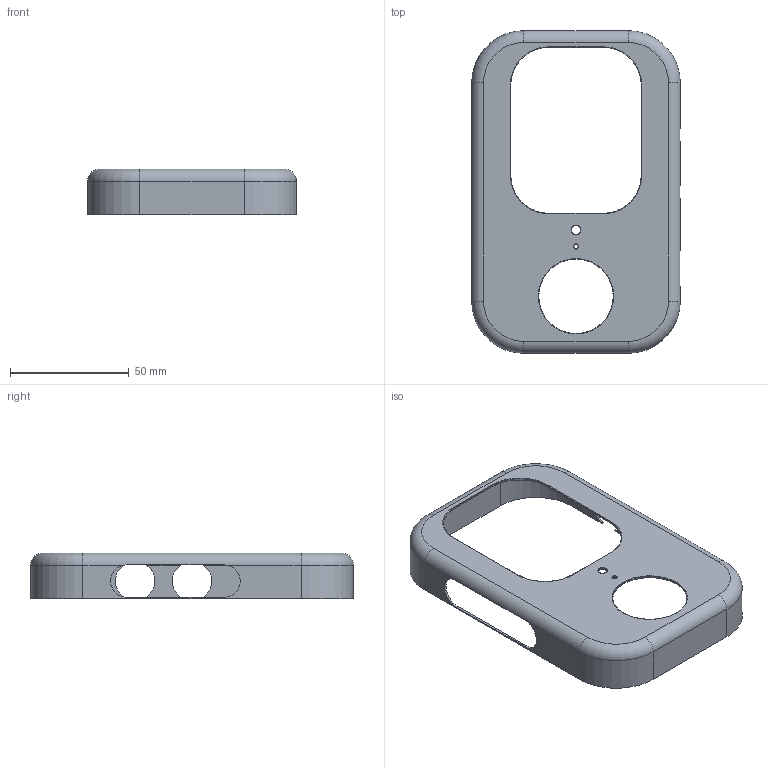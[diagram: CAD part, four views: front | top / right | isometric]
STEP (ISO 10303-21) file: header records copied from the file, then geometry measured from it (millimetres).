
FILE_DESCRIPTION(('Open CASCADE Model'),'2;1');
FILE_NAME('Open CASCADE Shape Model','2026-09-06T11:32:42',('Author'),( 'Open CASCADE'),'Open CASCADE STEP processor 7.7','Open CASCADE 7.7' ,'Unknown');
FILE_SCHEMA(('AUTOMOTIVE_DESIGN { 1 0 10303 214 1 1 1 1 }'));
Length unit declared in the file: millimetre
Products named in the file (1): Open CASCADE STEP translator 7.7 3
Bounding box: 88 x 136 x 19.25 mm (x, y, z)
Volume: 9944.7 mm3; surface area: 25624.6 mm2
Topology: 1 solids, 1 shells, 96 faces, 261 edges, 165 vertices
Faces by surface type: cylinder 45, plane 36, torus 15
Full cylindrical faces by diameter (mm): 1.8 x1, 3.7 x1, 31.4 x1
Entity records: 6968 total; most frequent: CARTESIAN_POINT 1791, DIRECTION 973, ORIENTED_EDGE 522, PCURVE 522, DEFINITIONAL_REPRESENTATION 522, LINE 511, VECTOR 511, EDGE_CURVE 261
